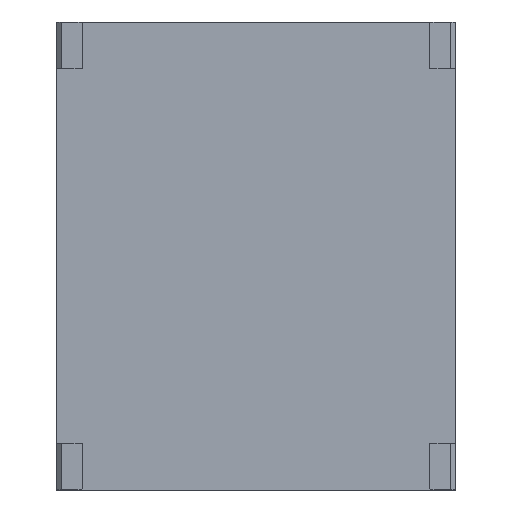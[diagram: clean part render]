
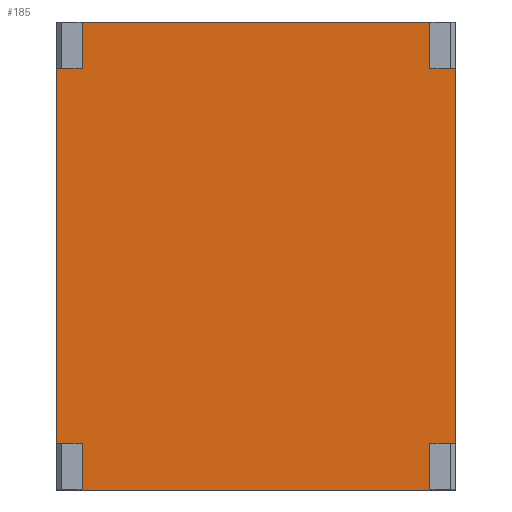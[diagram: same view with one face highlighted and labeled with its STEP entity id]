
A CAD part, front view. The second image highlights one B-rep face of the part: STEP entity #185.
In plain terms, the highlighted planar face has unit normal (0, -1, 0).
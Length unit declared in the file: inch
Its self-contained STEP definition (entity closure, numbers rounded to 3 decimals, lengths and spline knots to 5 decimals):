
#185=ADVANCED_FACE('',(#368),#3063,.T.);
#368=FACE_OUTER_BOUND('',#556,.T.);
#556=EDGE_LOOP('',(#1461,#1462,#1463,#1464,#1465,#1466,#1467,#1468,#1469,
#1470,#1471,#1472));
#1461=ORIENTED_EDGE('',*,*,#2030,.F.);
#1462=ORIENTED_EDGE('',*,*,#2008,.T.);
#1463=ORIENTED_EDGE('',*,*,#2026,.T.);
#1464=ORIENTED_EDGE('',*,*,#2023,.T.);
#1465=ORIENTED_EDGE('',*,*,#2024,.T.);
#1466=ORIENTED_EDGE('',*,*,#2012,.F.);
#1467=ORIENTED_EDGE('',*,*,#2014,.T.);
#1468=ORIENTED_EDGE('',*,*,#2000,.F.);
#1469=ORIENTED_EDGE('',*,*,#2019,.T.);
#1470=ORIENTED_EDGE('',*,*,#2017,.F.);
#1471=ORIENTED_EDGE('',*,*,#2018,.T.);
#1472=ORIENTED_EDGE('',*,*,#2029,.T.);
#2000=EDGE_CURVE('',#2886,#2884,#2476,.T.);
#2008=EDGE_CURVE('',#2890,#2888,#2484,.T.);
#2012=EDGE_CURVE('',#2894,#2893,#2488,.T.);
#2014=EDGE_CURVE('',#2894,#2884,#2490,.T.);
#2017=EDGE_CURVE('',#2896,#2897,#2493,.T.);
#2018=EDGE_CURVE('',#2896,#2902,#2494,.T.);
#2019=EDGE_CURVE('',#2886,#2897,#2495,.T.);
#2023=EDGE_CURVE('',#2900,#2899,#2499,.T.);
#2024=EDGE_CURVE('',#2899,#2893,#2500,.T.);
#2026=EDGE_CURVE('',#2888,#2900,#2502,.T.);
#2029=EDGE_CURVE('',#2902,#2903,#2505,.T.);
#2030=EDGE_CURVE('',#2890,#2903,#2506,.T.);
#2476=B_SPLINE_CURVE_WITH_KNOTS('',1,(#5845,#5846),.UNSPECIFIED.,.F.,.F.,
(2,2),(0.27986,4.10395),.UNSPECIFIED.);
#2484=B_SPLINE_CURVE_WITH_KNOTS('',1,(#5863,#5864),.UNSPECIFIED.,.F.,.F.,
(2,2),(0.,3.82409),.UNSPECIFIED.);
#2488=B_SPLINE_CURVE_WITH_KNOTS('',1,(#5873,#5874),.UNSPECIFIED.,.F.,.F.,
(2,2),(3.83316,4.11301),.UNSPECIFIED.);
#2490=B_SPLINE_CURVE_WITH_KNOTS('',1,(#5877,#5878),.UNSPECIFIED.,.F.,.F.,
(2,2),(0.,0.51136),.UNSPECIFIED.);
#2493=B_SPLINE_CURVE_WITH_KNOTS('',1,(#5883,#5884),.UNSPECIFIED.,.F.,.F.,
(2,2),(0.27079,0.55064),.UNSPECIFIED.);
#2494=B_SPLINE_CURVE_WITH_KNOTS('',1,(#5885,#5886),.UNSPECIFIED.,.F.,.F.,
(2,2),(0.51136,4.63543),.UNSPECIFIED.);
#2495=B_SPLINE_CURVE_WITH_KNOTS('',1,(#5887,#5888),.UNSPECIFIED.,.F.,.F.,
(2,2),(0.,0.51136),.UNSPECIFIED.);
#2499=B_SPLINE_CURVE_WITH_KNOTS('',1,(#5895,#5896),.UNSPECIFIED.,.F.,.F.,
(2,2),(3.83316,4.11301),.UNSPECIFIED.);
#2500=B_SPLINE_CURVE_WITH_KNOTS('',1,(#5897,#5898),.UNSPECIFIED.,.F.,.F.,
(2,2),(0.51136,4.63543),.UNSPECIFIED.);
#2502=B_SPLINE_CURVE_WITH_KNOTS('',1,(#5901,#5902),.UNSPECIFIED.,.F.,.F.,
(2,2),(0.,0.51136),.UNSPECIFIED.);
#2505=B_SPLINE_CURVE_WITH_KNOTS('',1,(#5907,#5908),.UNSPECIFIED.,.F.,.F.,
(2,2),(0.27079,0.55064),.UNSPECIFIED.);
#2506=B_SPLINE_CURVE_WITH_KNOTS('',1,(#5909,#5910),.UNSPECIFIED.,.F.,.F.,
(2,2),(0.,0.51136),.UNSPECIFIED.);
#2884=VERTEX_POINT('',#4599);
#2886=VERTEX_POINT('',#4601);
#2888=VERTEX_POINT('',#4603);
#2890=VERTEX_POINT('',#4605);
#2893=VERTEX_POINT('',#4608);
#2894=VERTEX_POINT('',#4609);
#2896=VERTEX_POINT('',#4611);
#2897=VERTEX_POINT('',#4612);
#2899=VERTEX_POINT('',#4614);
#2900=VERTEX_POINT('',#4615);
#2902=VERTEX_POINT('',#4617);
#2903=VERTEX_POINT('',#4618);
#3063=PLANE('',#3359);
#3359=AXIS2_PLACEMENT_3D('',#4199,#3551,$);
#3551=DIRECTION('',(0.,-1.,0.));
#4199=CARTESIAN_POINT('',(-20.86904,29.12371,-1.00456));
#4599=CARTESIAN_POINT('',(-16.7651,29.12371,4.14224));
#4601=CARTESIAN_POINT('',(-20.58919,29.12371,4.14224));
#4603=CARTESIAN_POINT('',(-16.7651,29.12371,-1.00456));
#4605=CARTESIAN_POINT('',(-20.58919,29.12371,-1.00456));
#4608=CARTESIAN_POINT('',(-16.48524,29.12371,3.63088));
#4609=CARTESIAN_POINT('',(-16.7651,29.12371,3.63088));
#4611=CARTESIAN_POINT('',(-20.86904,29.12371,3.63088));
#4612=CARTESIAN_POINT('',(-20.58919,29.12371,3.63088));
#4614=CARTESIAN_POINT('',(-16.48524,29.12371,-0.49319));
#4615=CARTESIAN_POINT('',(-16.7651,29.12371,-0.49319));
#4617=CARTESIAN_POINT('',(-20.86904,29.12371,-0.49319));
#4618=CARTESIAN_POINT('',(-20.58919,29.12371,-0.49319));
#5845=CARTESIAN_POINT('',(-20.58919,29.12371,4.14224));
#5846=CARTESIAN_POINT('',(-16.7651,29.12371,4.14224));
#5863=CARTESIAN_POINT('',(-20.58919,29.12371,-1.00456));
#5864=CARTESIAN_POINT('',(-16.7651,29.12371,-1.00456));
#5873=CARTESIAN_POINT('',(-16.7651,29.12371,3.63088));
#5874=CARTESIAN_POINT('',(-16.48524,29.12371,3.63088));
#5877=CARTESIAN_POINT('',(-16.7651,29.12371,3.63088));
#5878=CARTESIAN_POINT('',(-16.7651,29.12371,4.14224));
#5883=CARTESIAN_POINT('',(-20.86904,29.12371,3.63088));
#5884=CARTESIAN_POINT('',(-20.58919,29.12371,3.63088));
#5885=CARTESIAN_POINT('',(-20.86904,29.12371,3.63088));
#5886=CARTESIAN_POINT('',(-20.86904,29.12371,-0.49319));
#5887=CARTESIAN_POINT('',(-20.58919,29.12371,4.14224));
#5888=CARTESIAN_POINT('',(-20.58919,29.12371,3.63088));
#5895=CARTESIAN_POINT('',(-16.7651,29.12371,-0.49319));
#5896=CARTESIAN_POINT('',(-16.48524,29.12371,-0.49319));
#5897=CARTESIAN_POINT('',(-16.48524,29.12371,-0.49319));
#5898=CARTESIAN_POINT('',(-16.48524,29.12371,3.63088));
#5901=CARTESIAN_POINT('',(-16.7651,29.12371,-1.00456));
#5902=CARTESIAN_POINT('',(-16.7651,29.12371,-0.49319));
#5907=CARTESIAN_POINT('',(-20.86904,29.12371,-0.49319));
#5908=CARTESIAN_POINT('',(-20.58919,29.12371,-0.49319));
#5909=CARTESIAN_POINT('',(-20.58919,29.12371,-1.00456));
#5910=CARTESIAN_POINT('',(-20.58919,29.12371,-0.49319));
